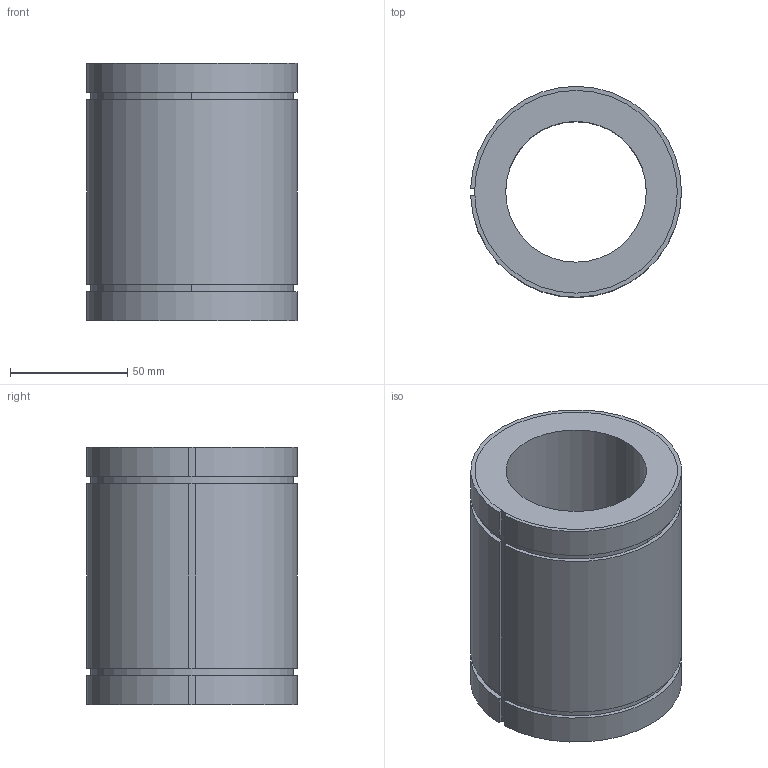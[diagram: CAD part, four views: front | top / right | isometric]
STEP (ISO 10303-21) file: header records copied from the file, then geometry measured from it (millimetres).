
FILE_DESCRIPTION((''),'2;1');
FILE_NAME('C:\Documents and Settings\ｿﾀﾀ蠑ｷ1\ｹﾙﾅﾁ ﾈｭｸ饅\ｺﾎﾇｰﾆﾄﾀﾏ\ﾁｦﾇｰ\LM__UUAJ\LM60UUAJ.stp','2005-06-14T16:28:10',('ｿﾀﾀ蠑ｷ1'),(''),'Autodesk Inventor 9','Autodesk Inventor 9','');
FILE_SCHEMA(('AUTOMOTIVE_DESIGN { 1 0 10303 214 1 1 1 1 }'));
Length unit declared in the file: millimetre
Products named in the file (1): LM__AJ
Bounding box: 89.97 x 89.99 x 110 mm (x, y, z)
Volume: 385173.6 mm3; surface area: 61102.7 mm2
Topology: 1 solids, 1 shells, 29 faces, 76 edges, 49 vertices
Faces by surface type: plane 17, cylinder 12
Entity records: 928 total; most frequent: DIRECTION 167, CARTESIAN_POINT 155, ORIENTED_EDGE 152, EDGE_CURVE 76, AXIS2_PLACEMENT_3D 61, VERTEX_POINT 49, VECTOR 45, LINE 45
